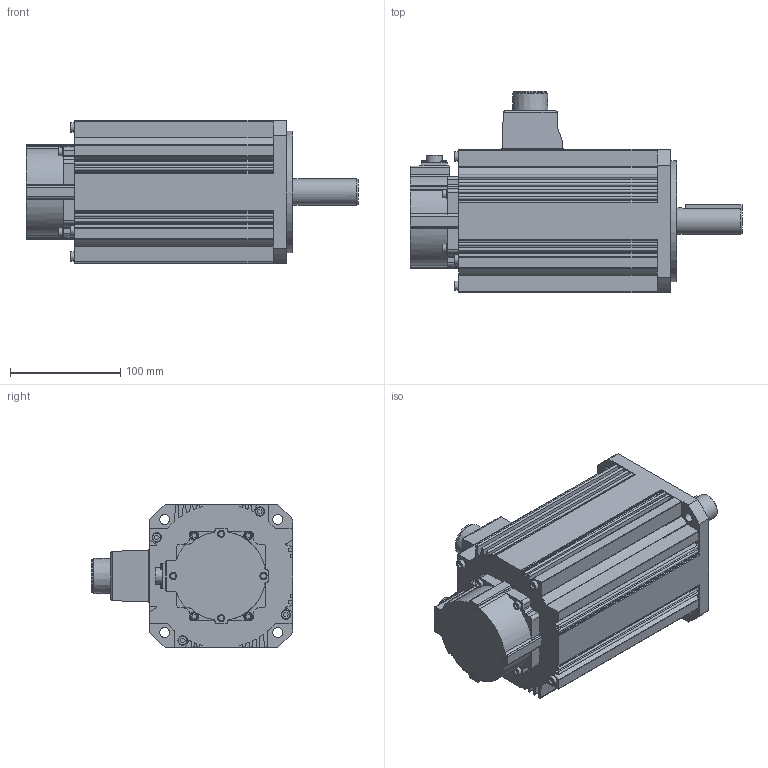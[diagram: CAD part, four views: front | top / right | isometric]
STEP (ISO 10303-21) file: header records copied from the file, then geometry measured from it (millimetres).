
FILE_DESCRIPTION( ( 'STEP AP0' ), '1' );
FILE_NAME( '//expscmdclustefs.cadenas.external/client_exchange/iodir/jobs/output/wkb64901771_no0/STEP/MSME404G1G_1__2_03.stp', ' ', ( ' ' ), ( ' ' ), 'PSStep 15.0.47', 'PARTsolutions', ' ' );
FILE_SCHEMA( ( 'CONFIG_CONTROL_DESIGN' ) );
Length unit declared in the file: millimetre
Products named in the file (1): HI_MSME404G1G(1)
Bounding box: 301 x 183 x 130 mm (x, y, z)
Volume: 3216686.5 mm3; surface area: 196209.4 mm2
Topology: 1 solids, 1 shells, 544 faces, 1436 edges, 942 vertices
Faces by surface type: plane 281, cylinder 224, cone 18, torus 17, sphere 4
Full cylindrical faces by diameter (mm): 2.459 x1, 5.5 x4, 6.5 x4, 7 x4, 8.5 x4, 9 x4, 10.1 x4, 10.5 x4, 14.8 x1, 24 x1, 29.74 x1, 34 x1, 38 x1, 45 x1, 102 x1, 110 x1
Entity records: 16723 total; most frequent: CARTESIAN_POINT 3121, DIRECTION 2901, ORIENTED_EDGE 2708, EDGE_CURVE 1354, AXIS2_PLACEMENT_3D 1037, VERTEX_POINT 935, LINE 827, VECTOR 827
